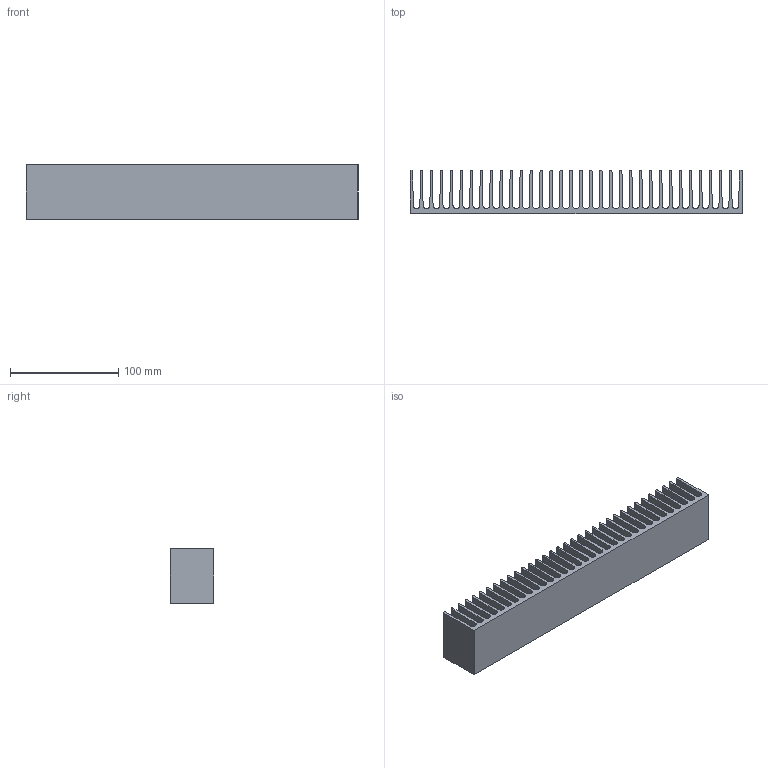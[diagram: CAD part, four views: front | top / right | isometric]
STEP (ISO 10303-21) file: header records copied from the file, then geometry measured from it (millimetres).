
FILE_DESCRIPTION (( 'STEP AP203' ), '1' );
FILE_NAME ('PR 177-50.step', '2002-10-21T08:08:29', ( 'Wolfgang Müller' ), ( 'DPS' ), 'SwSTEP 2.0', 'SolidWorks 2002264', '' );
FILE_SCHEMA (( 'CONFIG_CONTROL_DESIGN' ));
Length unit declared in the file: millimetre
Products named in the file (1): PR 177-50
Bounding box: 306.4 x 40 x 50 mm (x, y, z)
Volume: 226763.6 mm3; surface area: 153505.9 mm2
Topology: 1 solids, 1 shells, 144 faces, 426 edges, 284 vertices
Faces by surface type: plane 73, cylinder 71
Entity records: 4929 total; most frequent: DIRECTION 858, CARTESIAN_POINT 855, ORIENTED_EDGE 852, EDGE_CURVE 426, AXIS2_PLACEMENT_3D 287, VERTEX_POINT 284, LINE 284, VECTOR 284
